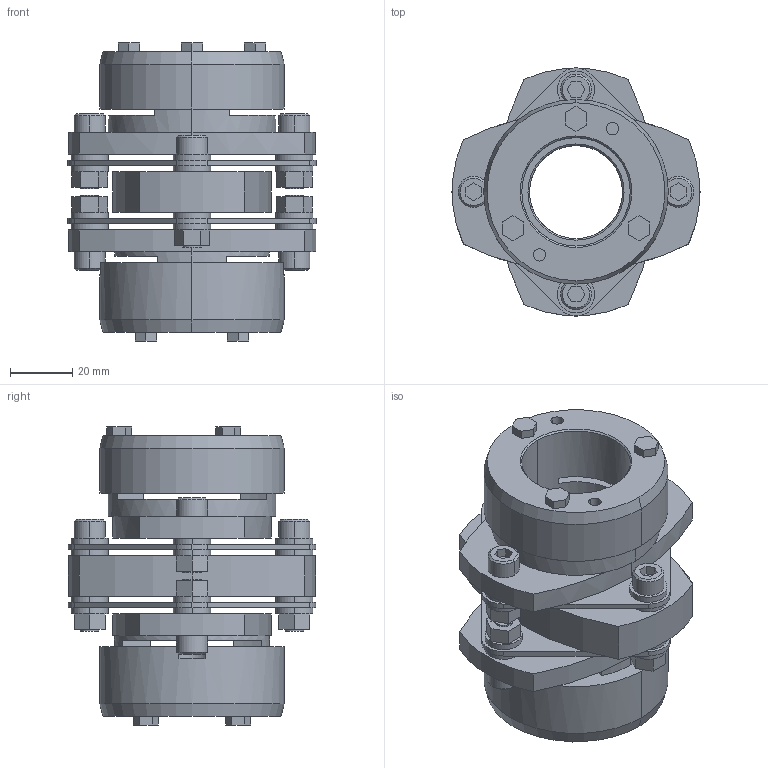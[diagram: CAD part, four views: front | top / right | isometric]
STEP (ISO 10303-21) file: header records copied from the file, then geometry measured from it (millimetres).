
FILE_DESCRIPTION((''),'2;1');
FILE_NAME('LCD-80T7-30×35.stp','2011-09-15T16:04:17',(''),(''),'AutoCAD STEP 2000i','AutoCAD 2000i',', , ');
FILE_SCHEMA(('CONFIG_CONTROL_DESIGN'));
Length unit declared in the file: millimetre
Products named in the file (13): LCD-80T7-30×35; 忣兜1; LC80T7-T035; LC80T7-T032; LC80T7-T030-1; LC80T7-T030; LC80T7-T028; LC80T7-T024; LC80T7-T022; LC80T7-T019; LC80T7-T017-1; LC80T7-T017; LCD80-ITA
Assembly tree (12 placements, depth 2):
  LCD-80T7-30×35
    忣兜1
    LC80T7-T035
    LC80T7-T032
    LC80T7-T030-1
    LC80T7-T030
    LC80T7-T028
    LC80T7-T024
    LC80T7-T022
    LC80T7-T019
    LC80T7-T017-1
    LC80T7-T017
    LCD80-ITA
Bounding box: 80 x 79.95 x 96.1 mm (x, y, z)
Volume: 177003.2 mm3; surface area: 58540 mm2
Topology: 1 solids, 1 shells, 334 faces, 818 edges, 536 vertices
Faces by surface type: plane 188, cylinder 122, cone 24
Entity records: 10189 total; most frequent: DIRECTION 1808, CARTESIAN_POINT 1701, ORIENTED_EDGE 1636, EDGE_CURVE 818, AXIS2_PLACEMENT_3D 643, VERTEX_POINT 536, VECTOR 522, LINE 522
